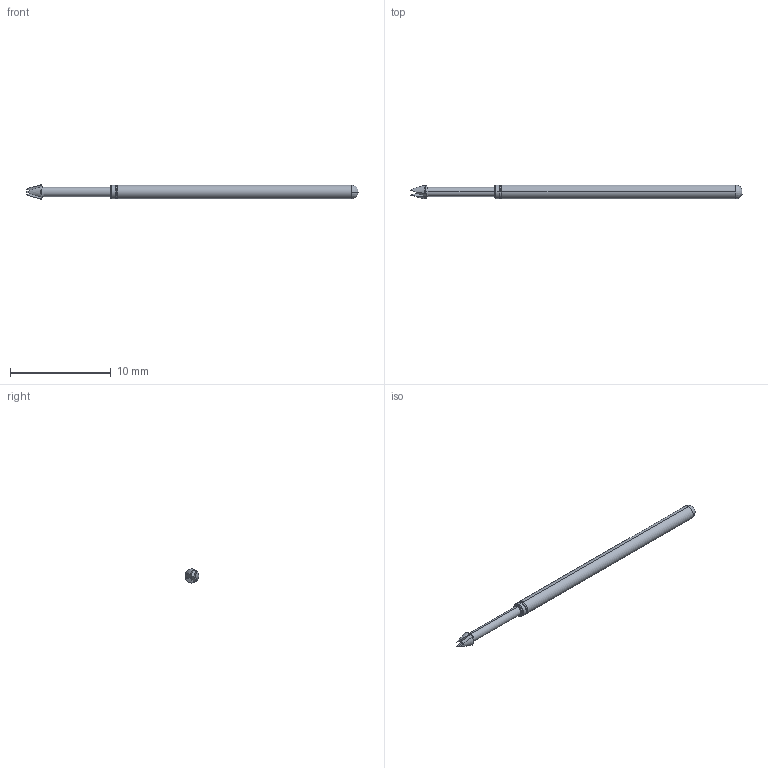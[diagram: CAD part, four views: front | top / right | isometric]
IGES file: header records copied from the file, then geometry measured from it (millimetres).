
Start section: SolidWorks IGES file using analytic representation for surfaces
Global section: file name: Z:\probe solid model mockups\Solidworks models\POGO-25 IGS files\POGO-25UN.IGS; native system: SolidWorks 2006 by SolidWorks Corporation; preprocessor: SolidWorks 2006 by SolidWorks Corporation; author: tsakatani; date: 071214.093546; units: inch
Bounding box: 33.02 x 1.38 x 1.4 mm (x, y, z)
Surface area: 133.1 mm2 (no closed solid volume)
Topology: 0 solids, 0 shells, 37 faces, 236 edges, 236 vertices
Faces by surface type: revolution 22, bspline 15
